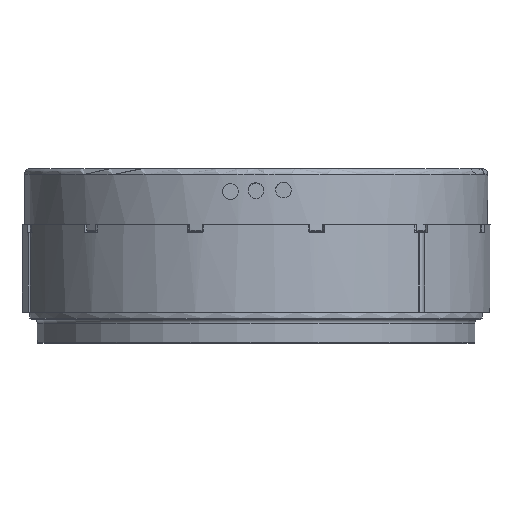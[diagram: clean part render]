
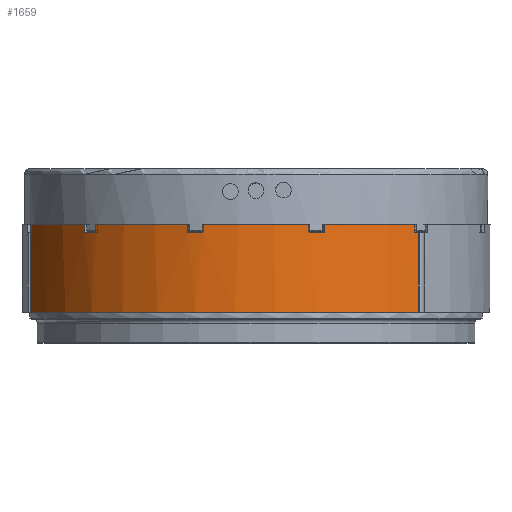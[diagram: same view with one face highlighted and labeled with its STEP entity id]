
A CAD part, front view. The second image highlights one B-rep face of the part: STEP entity #1659.
In plain terms, the highlighted cylindrical face has radius 59.975 mm (diameter 119.95 mm), a partial arc.
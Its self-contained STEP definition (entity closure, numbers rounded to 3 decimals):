
#68=LINE('',#8707,#573);
#69=LINE('',#8709,#574);
#70=LINE('',#8713,#575);
#71=LINE('',#8717,#576);
#72=LINE('',#8721,#577);
#73=LINE('',#8725,#578);
#74=LINE('',#8729,#579);
#75=LINE('',#8733,#580);
#76=LINE('',#8737,#581);
#77=LINE('',#8741,#582);
#573=VECTOR('',#6816,1.);
#574=VECTOR('',#6817,1.);
#575=VECTOR('',#6820,1.);
#576=VECTOR('',#6823,1.);
#577=VECTOR('',#6826,1.);
#578=VECTOR('',#6829,1.);
#579=VECTOR('',#6832,1.);
#580=VECTOR('',#6835,1.);
#581=VECTOR('',#6838,1.);
#582=VECTOR('',#6841,1.);
#1344=FACE_OUTER_BOUND('',#2434,.T.);
#1659=ADVANCED_FACE('',(#1344),#1993,.T.);
#1993=CYLINDRICAL_SURFACE('',#6161,59.975);
#2085=CIRCLE('',#6129,59.975);
#2106=CIRCLE('',#6152,59.975);
#2107=CIRCLE('',#6153,59.975);
#2108=CIRCLE('',#6154,59.975);
#2109=CIRCLE('',#6155,59.975);
#2110=CIRCLE('',#6156,59.975);
#2111=CIRCLE('',#6157,59.975);
#2112=CIRCLE('',#6158,59.975);
#2113=CIRCLE('',#6159,59.975);
#2114=CIRCLE('',#6160,59.975);
#2434=EDGE_LOOP('',(#2866,#2867,#2868,#2869,#2870,#2871,#2872,#2873,#2874,
#2875,#2876,#2877,#2878,#2879,#2880,#2881,#2882,#2883,#2884,#2885));
#2866=ORIENTED_EDGE('',*,*,#5168,.F.);
#2867=ORIENTED_EDGE('',*,*,#5127,.T.);
#2868=ORIENTED_EDGE('',*,*,#5169,.T.);
#2869=ORIENTED_EDGE('',*,*,#5170,.F.);
#2870=ORIENTED_EDGE('',*,*,#5171,.F.);
#2871=ORIENTED_EDGE('',*,*,#5172,.F.);
#2872=ORIENTED_EDGE('',*,*,#5173,.F.);
#2873=ORIENTED_EDGE('',*,*,#5174,.F.);
#2874=ORIENTED_EDGE('',*,*,#5175,.F.);
#2875=ORIENTED_EDGE('',*,*,#5176,.F.);
#2876=ORIENTED_EDGE('',*,*,#5177,.F.);
#2877=ORIENTED_EDGE('',*,*,#5178,.F.);
#2878=ORIENTED_EDGE('',*,*,#5179,.F.);
#2879=ORIENTED_EDGE('',*,*,#5180,.F.);
#2880=ORIENTED_EDGE('',*,*,#5181,.F.);
#2881=ORIENTED_EDGE('',*,*,#5182,.F.);
#2882=ORIENTED_EDGE('',*,*,#5183,.F.);
#2883=ORIENTED_EDGE('',*,*,#5184,.F.);
#2884=ORIENTED_EDGE('',*,*,#5185,.F.);
#2885=ORIENTED_EDGE('',*,*,#5186,.F.);
#4549=VERTEX_POINT('',#8627);
#4550=VERTEX_POINT('',#8628);
#4587=VERTEX_POINT('',#8708);
#4588=VERTEX_POINT('',#8710);
#4589=VERTEX_POINT('',#8712);
#4590=VERTEX_POINT('',#8714);
#4591=VERTEX_POINT('',#8716);
#4592=VERTEX_POINT('',#8718);
#4593=VERTEX_POINT('',#8720);
#4594=VERTEX_POINT('',#8722);
#4595=VERTEX_POINT('',#8724);
#4596=VERTEX_POINT('',#8726);
#4597=VERTEX_POINT('',#8728);
#4598=VERTEX_POINT('',#8730);
#4599=VERTEX_POINT('',#8732);
#4600=VERTEX_POINT('',#8734);
#4601=VERTEX_POINT('',#8736);
#4602=VERTEX_POINT('',#8738);
#4603=VERTEX_POINT('',#8740);
#4604=VERTEX_POINT('',#8742);
#5127=EDGE_CURVE('',#4549,#4550,#2085,.T.);
#5168=EDGE_CURVE('',#4549,#4587,#68,.T.);
#5169=EDGE_CURVE('',#4550,#4588,#69,.T.);
#5170=EDGE_CURVE('',#4589,#4588,#2106,.T.);
#5171=EDGE_CURVE('',#4590,#4589,#70,.T.);
#5172=EDGE_CURVE('',#4591,#4590,#2107,.T.);
#5173=EDGE_CURVE('',#4592,#4591,#71,.T.);
#5174=EDGE_CURVE('',#4593,#4592,#2108,.T.);
#5175=EDGE_CURVE('',#4594,#4593,#72,.T.);
#5176=EDGE_CURVE('',#4595,#4594,#2109,.T.);
#5177=EDGE_CURVE('',#4596,#4595,#73,.T.);
#5178=EDGE_CURVE('',#4597,#4596,#2110,.T.);
#5179=EDGE_CURVE('',#4598,#4597,#74,.T.);
#5180=EDGE_CURVE('',#4599,#4598,#2111,.T.);
#5181=EDGE_CURVE('',#4600,#4599,#75,.T.);
#5182=EDGE_CURVE('',#4601,#4600,#2112,.T.);
#5183=EDGE_CURVE('',#4602,#4601,#76,.T.);
#5184=EDGE_CURVE('',#4603,#4602,#2113,.T.);
#5185=EDGE_CURVE('',#4604,#4603,#77,.T.);
#5186=EDGE_CURVE('',#4587,#4604,#2114,.T.);
#6129=AXIS2_PLACEMENT_3D('',#8626,#6750,#6751);
#6152=AXIS2_PLACEMENT_3D('',#8711,#6818,#6819);
#6153=AXIS2_PLACEMENT_3D('',#8715,#6821,#6822);
#6154=AXIS2_PLACEMENT_3D('',#8719,#6824,#6825);
#6155=AXIS2_PLACEMENT_3D('',#8723,#6827,#6828);
#6156=AXIS2_PLACEMENT_3D('',#8727,#6830,#6831);
#6157=AXIS2_PLACEMENT_3D('',#8731,#6833,#6834);
#6158=AXIS2_PLACEMENT_3D('',#8735,#6836,#6837);
#6159=AXIS2_PLACEMENT_3D('',#8739,#6839,#6840);
#6160=AXIS2_PLACEMENT_3D('',#8743,#6842,#6843);
#6161=AXIS2_PLACEMENT_3D('',#8744,#6844,#6845);
#6750=DIRECTION('',(0.,0.,1.));
#6751=DIRECTION('',(1.,0.,0.));
#6816=DIRECTION('',(0.,0.,1.));
#6817=DIRECTION('',(0.,0.,1.));
#6818=DIRECTION('',(0.,0.,1.));
#6819=DIRECTION('',(1.,0.,0.));
#6820=DIRECTION('',(0.,0.,-1.));
#6821=DIRECTION('',(0.,0.,1.));
#6822=DIRECTION('',(1.,0.,0.));
#6823=DIRECTION('',(0.,0.,1.));
#6824=DIRECTION('',(0.,0.,1.));
#6825=DIRECTION('',(1.,0.,0.));
#6826=DIRECTION('',(0.,0.,-1.));
#6827=DIRECTION('',(0.,0.,1.));
#6828=DIRECTION('',(1.,0.,0.));
#6829=DIRECTION('',(0.,0.,1.));
#6830=DIRECTION('',(0.,0.,1.));
#6831=DIRECTION('',(1.,0.,0.));
#6832=DIRECTION('',(0.,0.,-1.));
#6833=DIRECTION('',(0.,0.,1.));
#6834=DIRECTION('',(1.,0.,0.));
#6835=DIRECTION('',(0.,0.,1.));
#6836=DIRECTION('',(0.,0.,1.));
#6837=DIRECTION('',(1.,0.,0.));
#6838=DIRECTION('',(0.,0.,-1.));
#6839=DIRECTION('',(0.,0.,1.));
#6840=DIRECTION('',(1.,0.,0.));
#6841=DIRECTION('',(0.,0.,1.));
#6842=DIRECTION('',(0.,0.,1.));
#6843=DIRECTION('',(1.,0.,0.));
#6844=DIRECTION('',(0.,0.,-1.));
#6845=DIRECTION('',(0.707,0.707,0.));
#8626=CARTESIAN_POINT('',(0.,0.,-11.2));
#8627=CARTESIAN_POINT('',(-57.665,-16.486,-11.2));
#8628=CARTESIAN_POINT('',(41.696,-43.11,-11.2));
#8707=CARTESIAN_POINT('',(-57.665,-16.486,-1.05));
#8708=CARTESIAN_POINT('',(-57.665,-16.486,9.1));
#8709=CARTESIAN_POINT('',(41.696,-43.11,-1.05));
#8710=CARTESIAN_POINT('',(41.696,-43.11,9.1));
#8711=CARTESIAN_POINT('',(0.,0.,9.1));
#8712=CARTESIAN_POINT('',(40.953,-43.816,9.1));
#8713=CARTESIAN_POINT('',(40.953,-43.816,11.2));
#8714=CARTESIAN_POINT('',(40.953,-43.816,11.2));
#8715=CARTESIAN_POINT('',(0.,0.,11.2));
#8716=CARTESIAN_POINT('',(17.47,-57.374,11.2));
#8717=CARTESIAN_POINT('',(17.47,-57.374,11.2));
#8718=CARTESIAN_POINT('',(17.47,-57.374,9.1));
#8719=CARTESIAN_POINT('',(0.,0.,9.1));
#8720=CARTESIAN_POINT('',(13.558,-58.422,9.1));
#8721=CARTESIAN_POINT('',(13.558,-58.422,11.2));
#8722=CARTESIAN_POINT('',(13.558,-58.422,11.2));
#8723=CARTESIAN_POINT('',(0.,0.,11.2));
#8724=CARTESIAN_POINT('',(-13.558,-58.422,11.2));
#8725=CARTESIAN_POINT('',(-13.558,-58.422,11.2));
#8726=CARTESIAN_POINT('',(-13.558,-58.422,9.1));
#8727=CARTESIAN_POINT('',(0.,0.,9.1));
#8728=CARTESIAN_POINT('',(-17.47,-57.374,9.1));
#8729=CARTESIAN_POINT('',(-17.47,-57.374,11.2));
#8730=CARTESIAN_POINT('',(-17.47,-57.374,11.2));
#8731=CARTESIAN_POINT('',(0.,0.,11.2));
#8732=CARTESIAN_POINT('',(-40.953,-43.816,11.2));
#8733=CARTESIAN_POINT('',(-40.953,-43.816,11.2));
#8734=CARTESIAN_POINT('',(-40.953,-43.816,9.1));
#8735=CARTESIAN_POINT('',(0.,0.,9.1));
#8736=CARTESIAN_POINT('',(-43.816,-40.953,9.1));
#8737=CARTESIAN_POINT('',(-43.816,-40.953,11.2));
#8738=CARTESIAN_POINT('',(-43.816,-40.953,11.2));
#8739=CARTESIAN_POINT('',(0.,0.,11.2));
#8740=CARTESIAN_POINT('',(-57.374,-17.47,11.2));
#8741=CARTESIAN_POINT('',(-57.374,-17.47,11.2));
#8742=CARTESIAN_POINT('',(-57.374,-17.47,9.1));
#8743=CARTESIAN_POINT('',(0.,0.,9.1));
#8744=CARTESIAN_POINT('',(0.,0.,11.2));
